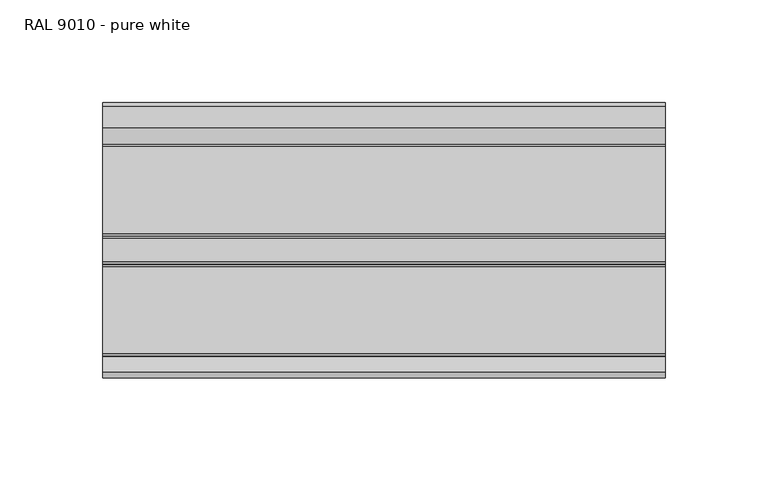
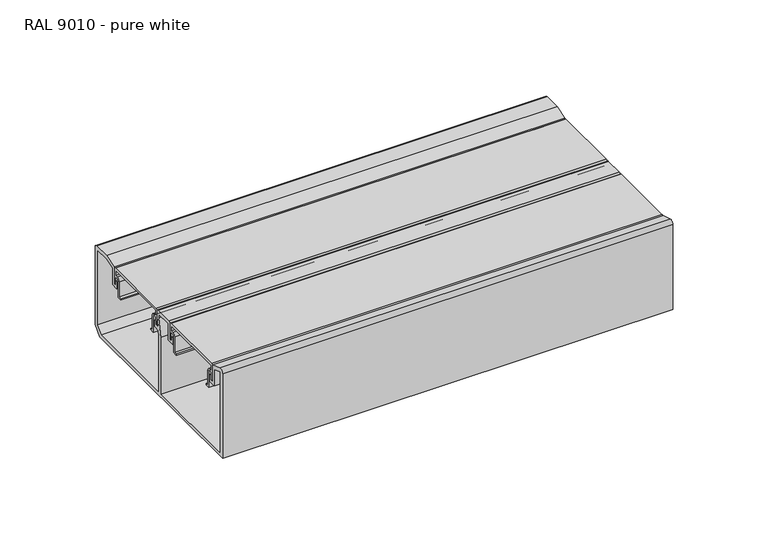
"""IFC4 building model written with IfcOpenShell, lengths in millimetres: proxy geometry, Electrical_Installations_Hager_GBD-Flat-Lid-End-Cap : RAL 9010 - pure white."""

from ifc_helpers import new_model, si_unit, point, frame, frame_2d, origin, place, context, project, spatial, polyline, circle_curve, trimmed, segment, composite_curve, outline, extrude, source, transform, mapped, element, save


def ral_9010_pure_white_3e9eb4af(model_context):
    return source(origin(), model_context, "Body", "SweptSolid", [
        extrude(outline(composite_curve([segment(polyline([(-64.6976563, 54.0894343), (-64.6976563, 2.0), (-2.2476563, 2.0), (-2.2476563, 38.3324137), (-0.2476563, 49.6749773), (-0.2476563, 52.0), (-9.8476563, 52.0), (-9.8476563, 41.5012147), (-14.5382813, 41.5012147), (-14.5382813, 45.748101), (-13.5382813, 45.748101), (-13.5382813, 42.9887147), (-11.6476563, 42.9887147), (-11.6476563, 53.0031102)]), True, "CONTINUOUS"), segment(trimmed(circle_curve(frame_2d((-10.6507665, 53.0031102)), 0.9968898), [point((-11.6476563, 53.0031102))], [point((-10.6507665, 54.0))], False, "CARTESIAN"), True, "CONTINUOUS"), segment(polyline([(-10.6507665, 54.0), (0.7441474, 54.0)]), True, "CONTINUOUS"), segment(trimmed(circle_curve(frame_2d((0.7441474, 52.9918037)), 1.0081963), [point((0.7441474, 54.0))], [point((1.7523437, 52.9918037))], False, "CARTESIAN"), True, "CONTINUOUS"), segment(polyline([(1.7523437, 52.9918037), (1.7523437, 49.5), (0.6591165, 43.3), (3.2523437, 43.3), (3.2523437, 45.7537431), (4.2523437, 45.7537431), (4.2523437, 41.5), (0.3417279, 41.5), (-0.2476563, 38.1574364), (-0.2476563, 2.0), (60.5496526, 2.0), (64.5023437, 5.9526912), (64.5023437, 54.2), (54.8614746, 54.2), (48.5523437, 52.1500391), (48.5523437, 41.5), (44.2523437, 41.5), (44.2523437, 45.7556921), (45.2523437, 45.7556921), (45.2523437, 42.9887147), (46.7523437, 42.9887147), (46.7523437, 53.9835468), (54.4971904, 56.5), (64.8989144, 56.5)]), True, "CONTINUOUS"), segment(trimmed(circle_curve(frame_2d((64.8989144, 54.5965707)), 1.9034293), [point((64.8989144, 56.5))], [point((66.8023437, 54.5965707))], False, "CARTESIAN"), True, "CONTINUOUS"), segment(polyline([(66.8023437, 54.5965707), (66.8023437, 5.0), (61.8023437, 0.0), (-66.9976563, 0.0), (-66.9976563, 54.4045249)]), True, "CONTINUOUS"), segment(trimmed(circle_curve(frame_2d((-64.9278927, 54.4045249)), 2.0697636), [point((-66.9976563, 54.4045249))], [point((-64.2989994, 56.3764312))], False, "CARTESIAN"), True, "CONTINUOUS"), segment(polyline([(-64.2989994, 56.3764312), (-56.8429688, 53.998505), (-56.8429688, 42.9887147), (-54.6789063, 42.9887147), (-54.6789063, 45.7565885), (-53.6789063, 45.7565885), (-53.6789063, 41.5012147), (-58.4476563, 41.5012147), (-58.4476563, 52.0961433), (-64.6976563, 54.0894343)]), True, "CONTINUOUS")], self_intersect=False)), frame((0.0, 0.0, 0.0), z_axis=(1.0, 0.0, 0.0), x_axis=(0.0, 1.0, 0.0)), (0.0, 0.0, 1.0), 273.2031449),
        extrude(outline(composite_curve([segment(polyline([(-13.1613464, 52.5816445), (-55.0613464, 52.5816445), (-55.0613464, 49.2816445), (-53.7229555, 49.2816445)]), True, "CONTINUOUS"), segment(trimmed(circle_curve(frame_2d((-53.7229555, 47.1700354)), 2.1116091), [point((-53.7229555, 49.2816445))], [point((-51.6113464, 47.1700354))], False, "CARTESIAN"), True, "CONTINUOUS"), segment(polyline([(-51.6113464, 47.1700354), (-51.6113464, 37.6816445), (-49.7113464, 37.6816445), (-49.7113464, 36.8816445), (-52.6113464, 36.8816445), (-52.6113464, 47.3262929)]), True, "CONTINUOUS"), segment(trimmed(circle_curve(frame_2d((-53.566698, 47.3262929)), 0.9553516), [point((-52.6113464, 47.3262929))], [point((-53.566698, 48.2816445))], True, "CARTESIAN"), True, "CONTINUOUS"), segment(polyline([(-53.566698, 48.2816445), (-55.3644879, 48.2816445), (-55.3644879, 43.8012242), (-56.3660339, 43.8012242), (-56.3660339, 53.0900381)]), True, "CONTINUOUS"), segment(trimmed(circle_curve(frame_2d((-55.456072, 53.0900381)), 0.9099619), [point((-56.3660339, 53.0900381))], [point((-55.456072, 54.0))], False, "CARTESIAN"), True, "CONTINUOUS"), segment(polyline([(-55.456072, 54.0), (-12.9820268, 54.0)]), True, "CONTINUOUS"), segment(trimmed(circle_curve(frame_2d((-12.9820268, 52.9918196)), 1.0081804), [point((-12.9820268, 54.0))], [point((-11.9738464, 52.9918196))], False, "CARTESIAN"), True, "CONTINUOUS"), segment(polyline([(-11.9738464, 52.9918196), (-11.9738464, 43.8012242), (-12.858205, 43.8012242), (-12.858205, 48.2816445), (-14.6025892, 48.2816445)]), True, "CONTINUOUS"), segment(trimmed(circle_curve(frame_2d((-14.6025892, 47.2728873)), 1.0087572), [point((-14.6025892, 48.2816445))], [point((-15.6113464, 47.2728873))], True, "CARTESIAN"), True, "CONTINUOUS"), segment(polyline([(-15.6113464, 47.2728873), (-15.6113464, 36.8816445), (-18.5113464, 36.8816445), (-18.5113464, 37.6816445), (-16.6113464, 37.6816445), (-16.6113464, 47.3197896)]), True, "CONTINUOUS"), segment(trimmed(circle_curve(frame_2d((-14.6494915, 47.3197896)), 1.9618549), [point((-16.6113464, 47.3197896))], [point((-14.6494915, 49.2816445))], False, "CARTESIAN"), True, "CONTINUOUS"), segment(polyline([(-14.6494915, 49.2816445), (-13.1613464, 49.2816445), (-13.1613464, 52.5816445)]), True, "CONTINUOUS")], self_intersect=False)), frame((0.0, 0.0, 0.0), z_axis=(1.0, 0.0, 0.0), x_axis=(0.0, 1.0, 0.0)), (0.0, 0.0, 1.0), 273.2031449),
        extrude(outline(composite_curve([segment(polyline([(45.1923672, 52.5816445), (3.2923672, 52.5816445), (3.2923672, 49.2816445), (4.6307581, 49.2816445)]), True, "CONTINUOUS"), segment(trimmed(circle_curve(frame_2d((4.6307581, 47.1700354)), 2.1116091), [point((4.6307581, 49.2816445))], [point((6.7423672, 47.1700354))], False, "CARTESIAN"), True, "CONTINUOUS"), segment(polyline([(6.7423672, 47.1700354), (6.7423672, 37.6816445), (8.6423672, 37.6816445), (8.6423672, 36.8816445), (5.7423672, 36.8816445), (5.7423672, 47.3262929)]), True, "CONTINUOUS"), segment(trimmed(circle_curve(frame_2d((4.7870156, 47.3262929)), 0.9553516), [point((5.7423672, 47.3262929))], [point((4.7870156, 48.2816445))], True, "CARTESIAN"), True, "CONTINUOUS"), segment(polyline([(4.7870156, 48.2816445), (2.9892258, 48.2816445), (2.9892258, 43.8231023), (1.9876797, 43.8231023), (1.9876797, 53.0900381)]), True, "CONTINUOUS"), segment(trimmed(circle_curve(frame_2d((2.8976417, 53.0900381)), 0.9099619), [point((1.9876797, 53.0900381))], [point((2.8976417, 54.0))], False, "CARTESIAN"), True, "CONTINUOUS"), segment(polyline([(2.8976417, 54.0), (45.3716869, 54.0)]), True, "CONTINUOUS"), segment(trimmed(circle_curve(frame_2d((45.3716869, 52.9918196)), 1.0081804), [point((45.3716869, 54.0))], [point((46.3798672, 52.9918196))], False, "CARTESIAN"), True, "CONTINUOUS"), segment(polyline([(46.3798672, 52.9918196), (46.3798672, 43.9733035), (45.4955087, 43.9733035), (45.4955087, 48.2816445), (43.7511244, 48.2816445)]), True, "CONTINUOUS"), segment(trimmed(circle_curve(frame_2d((43.7511244, 47.2728873)), 1.0087572), [point((43.7511244, 48.2816445))], [point((42.7423672, 47.2728873))], True, "CARTESIAN"), True, "CONTINUOUS"), segment(polyline([(42.7423672, 47.2728873), (42.7423672, 36.8816445), (39.8423672, 36.8816445), (39.8423672, 37.6816445), (41.7423672, 37.6816445), (41.7423672, 47.3197896)]), True, "CONTINUOUS"), segment(trimmed(circle_curve(frame_2d((43.7042221, 47.3197896)), 1.9618549), [point((41.7423672, 47.3197896))], [point((43.7042221, 49.2816445))], False, "CARTESIAN"), True, "CONTINUOUS"), segment(polyline([(43.7042221, 49.2816445), (45.1923672, 49.2816445), (45.1923672, 52.5816445)]), True, "CONTINUOUS")], self_intersect=False)), frame((0.0, 0.0, 0.0), z_axis=(1.0, 0.0, 0.0), x_axis=(0.0, 1.0, 0.0)), (0.0, 0.0, 1.0), 273.2031449),
    ])


if __name__ == "__main__":
    model = new_model("IFC4")
    model_context = context("Model", 3, world=origin())
    ifc_project = project(units=[si_unit("LENGTHUNIT", "METRE", prefix="MILLI")], contexts=[model_context])
    site = spatial("IfcSite", under=ifc_project)
    building = spatial("IfcBuilding", under=site)
    placement = place(None, origin())
    ral_9010_pure_white_shape = ral_9010_pure_white_3e9eb4af(model_context)
    element("IfcBuildingElementProxy", 1, Name="Electrical_Installations_Hager_GBD-Flat-Lid-End-Cap : RAL 9010 - pure white", ObjectType="Electrical_Installations_Hager_GBD-Flat-Lid-End-Cap : RAL 9010 - pure white", at=placement, inside=building, context=model_context, shape_type="MappedRepresentation", body=[
        mapped(ral_9010_pure_white_shape, transform((0.0, 0.0, 0.0), x_axis=(1.0, 0.0, 0.0), y_axis=(0.0, 1.0, 0.0), z_axis=(0.0, 0.0, 1.0))),
    ])
    save(model, "model.ifc")
